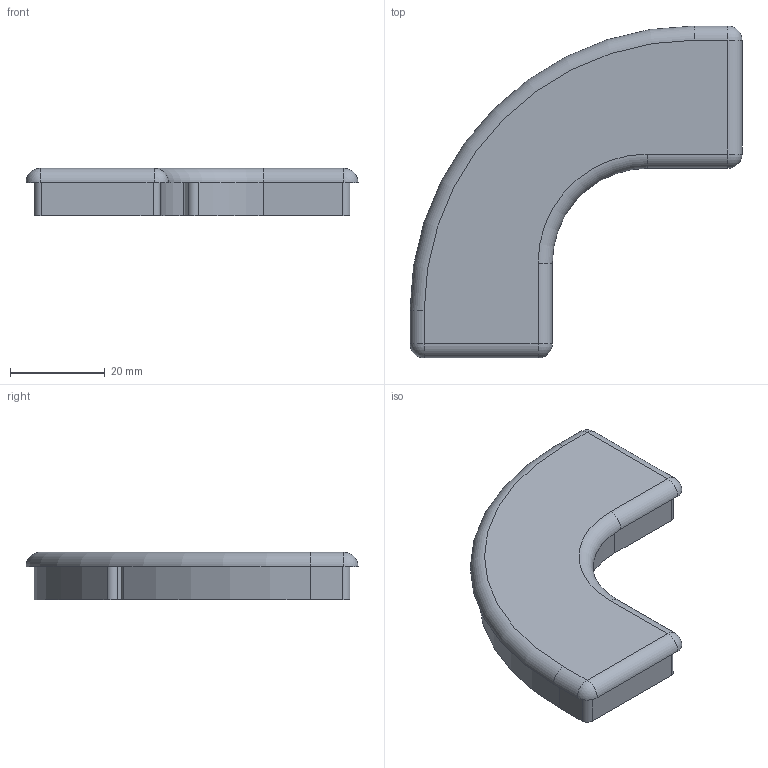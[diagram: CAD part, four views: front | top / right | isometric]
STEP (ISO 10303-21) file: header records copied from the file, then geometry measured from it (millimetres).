
FILE_DESCRIPTION (( 'STEP AP214' ), '1' );
FILE_NAME ('L21120.step', '2024-12-03T16:25:12', ( '' ), ( '' ), 'SwSTEP 2.0', 'SolidWorks 2023', '' );
FILE_SCHEMA (( 'AUTOMOTIVE_DESIGN' ));
Length unit declared in the file: millimetre
Products named in the file (1): L21120
Bounding box: 70 x 70 x 10 mm (x, y, z)
Volume: 10940.4 mm3; surface area: 9190.4 mm2
Topology: 1 solids, 1 shells, 50 faces, 132 edges, 84 vertices
Faces by surface type: plane 22, cylinder 22, sphere 4, torus 2
Entity records: 1555 total; most frequent: DIRECTION 282, CARTESIAN_POINT 263, ORIENTED_EDGE 256, EDGE_CURVE 128, AXIS2_PLACEMENT_3D 103, VERTEX_POINT 84, VECTOR 76, LINE 76
